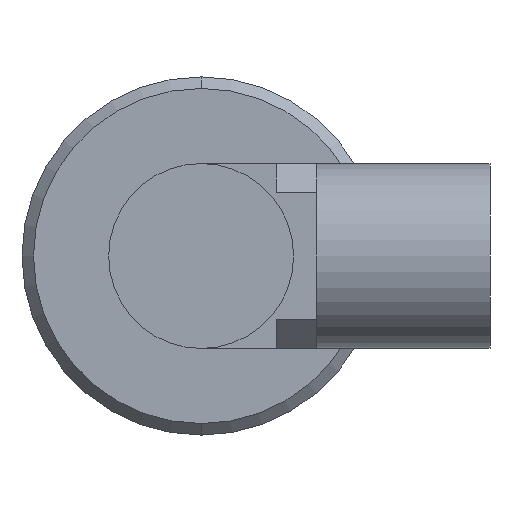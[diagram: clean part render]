
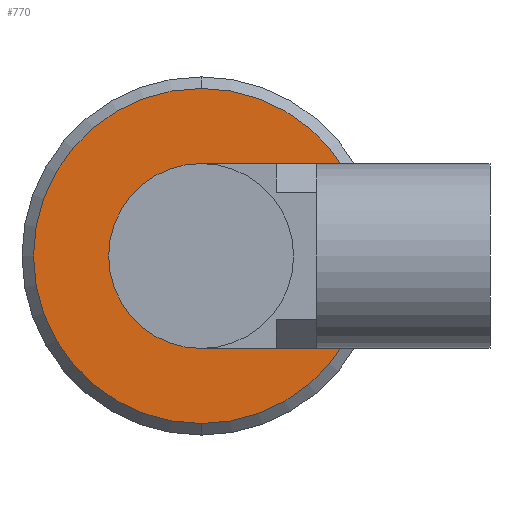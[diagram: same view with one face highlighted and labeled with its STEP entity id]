
A CAD part, left-side view. The second image highlights one B-rep face of the part: STEP entity #770.
In plain terms, the highlighted planar face has unit normal (-1, 0, 0).
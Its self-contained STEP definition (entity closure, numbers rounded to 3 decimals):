
#27 = CARTESIAN_POINT ( 'NONE',  ( 80.7, 0., 8. ) ) ;
#66 = DIRECTION ( 'NONE',  ( 1., 0., 0. ) ) ;
#74 = CARTESIAN_POINT ( 'NONE',  ( 80.7, 0., -14.5 ) ) ;
#100 = CARTESIAN_POINT ( 'NONE',  ( 80.7, 0., 0. ) ) ;
#120 = ORIENTED_EDGE ( 'NONE', *, *, #1607, .F. ) ;
#171 = DIRECTION ( 'NONE',  ( 1., 0., 0. ) ) ;
#186 = CARTESIAN_POINT ( 'NONE',  ( 80.7, 0., 0. ) ) ;
#231 = FACE_OUTER_BOUND ( 'NONE', #1246, .T. ) ;
#306 = DIRECTION ( 'NONE',  ( 0., 0., -1. ) ) ;
#332 = ORIENTED_EDGE ( 'NONE', *, *, #1016, .T. ) ;
#356 = VERTEX_POINT ( 'NONE', #74 ) ;
#388 = ORIENTED_EDGE ( 'NONE', *, *, #1441, .T. ) ;
#448 = EDGE_CURVE ( 'NONE', #356, #903, #1497, .T. ) ;
#487 = DIRECTION ( 'NONE',  ( -1., 0., 0. ) ) ;
#520 = ORIENTED_EDGE ( 'NONE', *, *, #448, .F. ) ;
#524 = EDGE_LOOP ( 'NONE', ( #388, #332 ) ) ;
#609 = VERTEX_POINT ( 'NONE', #27 ) ;
#612 = CARTESIAN_POINT ( 'NONE',  ( 80.7, 0., -8. ) ) ;
#751 = AXIS2_PLACEMENT_3D ( 'NONE', #1254, #487, #1373 ) ;
#764 = VERTEX_POINT ( 'NONE', #612 ) ;
#770 = ADVANCED_FACE ( 'NONE', ( #1516, #231 ), #1131, .T. ) ;
#819 = CARTESIAN_POINT ( 'NONE',  ( 80.7, 0., 0. ) ) ;
#852 = DIRECTION ( 'NONE',  ( 1., 0., 0. ) ) ;
#903 = VERTEX_POINT ( 'NONE', #1549 ) ;
#926 = CIRCLE ( 'NONE', #1171, 8. ) ;
#931 = CARTESIAN_POINT ( 'NONE',  ( 80.7, 0., 0. ) ) ;
#960 = DIRECTION ( 'NONE',  ( 0., 0., -1. ) ) ;
#961 = AXIS2_PLACEMENT_3D ( 'NONE', #100, #852, #988 ) ;
#988 = DIRECTION ( 'NONE',  ( 0., 0., -1. ) ) ;
#989 = CIRCLE ( 'NONE', #1245, 14.5 ) ;
#1016 = EDGE_CURVE ( 'NONE', #609, #764, #926, .T. ) ;
#1059 = DIRECTION ( 'NONE',  ( 0., 0., -1. ) ) ;
#1077 = CIRCLE ( 'NONE', #1119, 8. ) ;
#1078 = DIRECTION ( 'NONE',  ( 1., 0., 0. ) ) ;
#1119 = AXIS2_PLACEMENT_3D ( 'NONE', #819, #66, #960 ) ;
#1131 = PLANE ( 'NONE',  #751 ) ;
#1171 = AXIS2_PLACEMENT_3D ( 'NONE', #186, #1078, #306 ) ;
#1245 = AXIS2_PLACEMENT_3D ( 'NONE', #931, #171, #1059 ) ;
#1246 = EDGE_LOOP ( 'NONE', ( #520, #120 ) ) ;
#1254 = CARTESIAN_POINT ( 'NONE',  ( 80.7, 14.5, 0. ) ) ;
#1373 = DIRECTION ( 'NONE',  ( 0., 0., 1. ) ) ;
#1441 = EDGE_CURVE ( 'NONE', #764, #609, #1077, .T. ) ;
#1497 = CIRCLE ( 'NONE', #961, 14.5 ) ;
#1516 = FACE_BOUND ( 'NONE', #524, .T. ) ;
#1549 = CARTESIAN_POINT ( 'NONE',  ( 80.7, 0., 14.5 ) ) ;
#1607 = EDGE_CURVE ( 'NONE', #903, #356, #989, .T. ) ;
